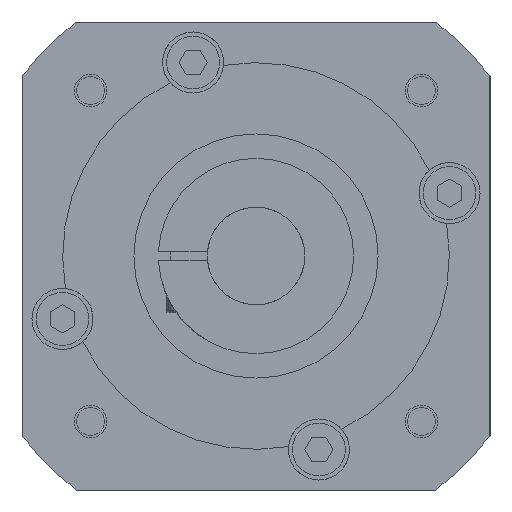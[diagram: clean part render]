
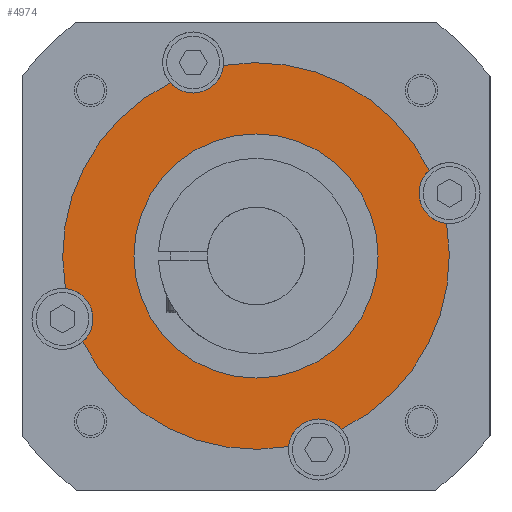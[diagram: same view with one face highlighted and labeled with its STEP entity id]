
A CAD part, left-side view. The second image highlights one B-rep face of the part: STEP entity #4974.
In plain terms, the highlighted planar face has unit normal (-1, 0, 0).
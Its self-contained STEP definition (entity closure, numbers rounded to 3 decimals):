
#1108=CARTESIAN_POINT('',(6.,0.,0.));
#1109=DIRECTION('',(-1.,0.,0.));
#1110=DIRECTION('',(0.,-0.443,-0.896));
#1111=AXIS2_PLACEMENT_3D('',#1108,#1109,#1110);
#1148=CARTESIAN_POINT('',(6.,0.,0.));
#1149=DIRECTION('',(-1.,0.,0.));
#1150=DIRECTION('',(0.,0.443,0.896));
#1151=AXIS2_PLACEMENT_3D('',#1148,#1149,#1150);
#1157=CARTESIAN_POINT('',(6.,-47.553,15.451));
#1158=DIRECTION('',(-1.,0.,0.));
#1159=DIRECTION('',(0.,0.664,0.748));
#1160=AXIS2_PLACEMENT_3D('',#1157,#1158,#1159);
#1162=CARTESIAN_POINT('',(6.,-15.451,-47.553));
#1163=DIRECTION('',(-1.,0.,0.));
#1164=DIRECTION('',(0.,-0.748,0.664));
#1165=AXIS2_PLACEMENT_3D('',#1162,#1163,#1164);
#1167=CARTESIAN_POINT('',(6.,-15.451,-47.553));
#1168=DIRECTION('',(-1.,0.,0.));
#1169=DIRECTION('',(0.,0.,1.));
#1170=AXIS2_PLACEMENT_3D('',#1167,#1168,#1169);
#1172=CARTESIAN_POINT('',(6.,0.,0.));
#1173=DIRECTION('',(1.,0.,0.));
#1174=DIRECTION('',(0.,-0.168,-0.986));
#1175=AXIS2_PLACEMENT_3D('',#1172,#1173,#1174);
#1177=CARTESIAN_POINT('',(6.,47.553,-15.451));
#1178=DIRECTION('',(-1.,0.,0.));
#1179=DIRECTION('',(0.,-0.664,-0.748));
#1180=AXIS2_PLACEMENT_3D('',#1177,#1178,#1179);
#1182=CARTESIAN_POINT('',(6.,15.451,47.553));
#1183=DIRECTION('',(-1.,0.,0.));
#1184=DIRECTION('',(0.,0.748,-0.664));
#1185=AXIS2_PLACEMENT_3D('',#1182,#1183,#1184);
#1187=CARTESIAN_POINT('',(6.,15.451,47.553));
#1188=DIRECTION('',(-1.,0.,0.));
#1189=DIRECTION('',(0.,0.,-1.));
#1190=AXIS2_PLACEMENT_3D('',#1187,#1188,#1189);
#1192=CARTESIAN_POINT('',(6.,0.,0.));
#1193=DIRECTION('',(-1.,0.,0.));
#1194=DIRECTION('',(0.,-0.896,0.443));
#1195=AXIS2_PLACEMENT_3D('',#1192,#1193,#1194);
#1197=CARTESIAN_POINT('',(6.,0.,0.));
#1198=DIRECTION('',(1.,0.,0.));
#1199=DIRECTION('',(0.,-1.,0.));
#1200=AXIS2_PLACEMENT_3D('',#1197,#1198,#1199);
#1210=CARTESIAN_POINT('',(6.,0.,0.));
#1211=DIRECTION('',(-1.,0.,0.));
#1212=DIRECTION('',(0.,-1.,0.));
#1213=AXIS2_PLACEMENT_3D('',#1210,#1211,#1212);
#3085=CARTESIAN_POINT('',(6.,-15.451,-40.053));
#3086=VERTEX_POINT('',#3085);
#3087=CARTESIAN_POINT('',(6.,15.451,40.053));
#3088=VERTEX_POINT('',#3087);
#3261=CARTESIAN_POINT('',(6.,-30.,0.));
#3263=VERTEX_POINT('',#3261);
#3265=CARTESIAN_POINT('',(6.,30.,0.));
#3267=VERTEX_POINT('',#3265);
#3321=CARTESIAN_POINT('',(6.,-21.061,-42.576));
#3322=VERTEX_POINT('',#3321);
#3323=CARTESIAN_POINT('',(6.,-7.986,-46.824));
#3324=VERTEX_POINT('',#3323);
#3325=CARTESIAN_POINT('',(6.,42.576,-21.061));
#3326=VERTEX_POINT('',#3325);
#3328=CARTESIAN_POINT('',(6.,46.824,-7.986));
#3330=VERTEX_POINT('',#3328);
#3331=CARTESIAN_POINT('',(6.,-42.576,21.061));
#3332=CARTESIAN_POINT('',(6.,-46.824,7.986));
#3333=VERTEX_POINT('',#3331);
#3334=VERTEX_POINT('',#3332);
#3335=CARTESIAN_POINT('',(6.,7.986,46.824));
#3336=VERTEX_POINT('',#3335);
#3337=CARTESIAN_POINT('',(6.,21.061,42.576));
#3338=VERTEX_POINT('',#3337);
#4948=CARTESIAN_POINT('',(6.,0.,0.));
#4949=DIRECTION('',(1.,0.,0.));
#4950=DIRECTION('',(0.,1.,0.));
#4951=AXIS2_PLACEMENT_3D('',#4948,#4949,#4950);
#4952=PLANE('',#4951);
#4953=ORIENTED_EDGE('',*,*,#4768,.T.);
#4954=ORIENTED_EDGE('',*,*,#4911,.F.);
#4955=ORIENTED_EDGE('',*,*,#4865,.T.);
#4956=ORIENTED_EDGE('',*,*,#4887,.T.);
#4957=ORIENTED_EDGE('',*,*,#4928,.T.);
#4959=ORIENTED_EDGE('',*,*,#4958,.T.);
#4960=ORIENTED_EDGE('',*,*,#4941,.F.);
#4962=ORIENTED_EDGE('',*,*,#4961,.T.);
#4964=ORIENTED_EDGE('',*,*,#4963,.T.);
#4965=ORIENTED_EDGE('',*,*,#4898,.F.);
#4966=EDGE_LOOP('',(#4953,#4954,#4955,#4956,#4957,#4959,#4960,#4962,#4964,
#4965));
#4967=FACE_OUTER_BOUND('',#4966,.F.);
#4969=ORIENTED_EDGE('',*,*,#4968,.F.);
#4971=ORIENTED_EDGE('',*,*,#4970,.T.);
#4972=EDGE_LOOP('',(#4969,#4971));
#4973=FACE_BOUND('',#4972,.F.);
#1112=CIRCLE('',#1111,47.5);
#1152=CIRCLE('',#1151,47.5);
#1161=CIRCLE('',#1160,7.5);
#1166=CIRCLE('',#1165,7.5);
#1171=CIRCLE('',#1170,7.5);
#1176=CIRCLE('',#1175,47.5);
#1181=CIRCLE('',#1180,7.5);
#1186=CIRCLE('',#1185,7.5);
#1191=CIRCLE('',#1190,7.5);
#1196=CIRCLE('',#1195,47.5);
#1201=CIRCLE('',#1200,30.);
#1214=CIRCLE('',#1213,30.);
#4768=EDGE_CURVE('',#3333,#3334,#1161,.T.);
#4865=EDGE_CURVE('',#3322,#3086,#1166,.T.);
#4887=EDGE_CURVE('',#3086,#3324,#1171,.T.);
#4898=EDGE_CURVE('',#3333,#3336,#1196,.T.);
#4911=EDGE_CURVE('',#3322,#3334,#1112,.T.);
#4928=EDGE_CURVE('',#3324,#3326,#1176,.T.);
#4941=EDGE_CURVE('',#3338,#3330,#1152,.T.);
#4958=EDGE_CURVE('',#3326,#3330,#1181,.T.);
#4961=EDGE_CURVE('',#3338,#3088,#1186,.T.);
#4963=EDGE_CURVE('',#3088,#3336,#1191,.T.);
#4968=EDGE_CURVE('',#3263,#3267,#1201,.T.);
#4970=EDGE_CURVE('',#3263,#3267,#1214,.T.);
#4974=ADVANCED_FACE('',(#4967,#4973),#4952,.F.);
